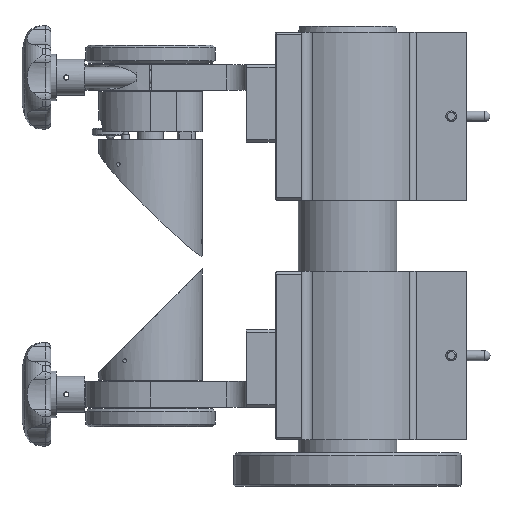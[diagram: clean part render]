
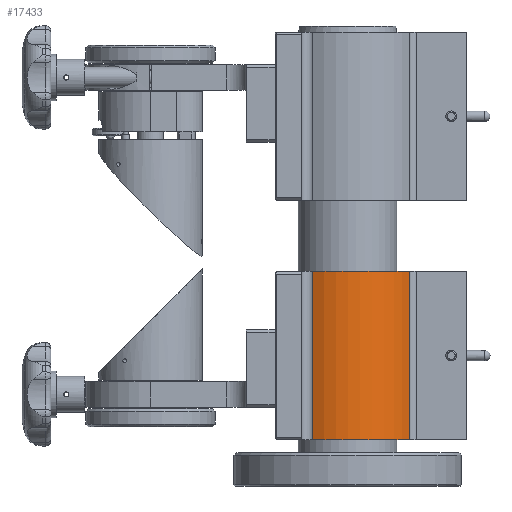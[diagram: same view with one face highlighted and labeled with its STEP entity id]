
A CAD part, left-side view. The second image highlights one B-rep face of the part: STEP entity #17433.
In plain terms, the highlighted cylindrical face has radius 28 mm (diameter 56 mm), a partial arc.
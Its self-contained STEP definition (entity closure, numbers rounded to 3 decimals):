
#608=LINE('',#27453,#1673);
#609=LINE('',#27459,#1674);
#1673=VECTOR('',#21867,65.);
#1674=VECTOR('',#21872,65.);
#3111=CYLINDRICAL_SURFACE('',#18894,28.);
#4226=FACE_OUTER_BOUND('',#5485,.T.);
#5485=EDGE_LOOP('',(#12641,#12642,#12643,#12644));
#6963=CIRCLE('',#18895,28.);
#6964=CIRCLE('',#18896,28.);
#8092=VERTEX_POINT('',#27446);
#8095=VERTEX_POINT('',#27451);
#8097=VERTEX_POINT('',#27456);
#8098=VERTEX_POINT('',#27458);
#9846=EDGE_CURVE('',#8095,#8092,#608,.T.);
#9848=EDGE_CURVE('',#8097,#8098,#609,.T.);
#9879=EDGE_CURVE('',#8092,#8097,#6963,.T.);
#9880=EDGE_CURVE('',#8098,#8095,#6964,.T.);
#12641=ORIENTED_EDGE('',*,*,#9848,.F.);
#12642=ORIENTED_EDGE('',*,*,#9879,.F.);
#12643=ORIENTED_EDGE('',*,*,#9846,.F.);
#12644=ORIENTED_EDGE('',*,*,#9880,.F.);
#17433=ADVANCED_FACE('',(#4226),#3111,.T.);
#18894=AXIS2_PLACEMENT_3D('',#27787,#21898,#21899);
#18895=AXIS2_PLACEMENT_3D('',#27788,#21900,#21901);
#18896=AXIS2_PLACEMENT_3D('',#27789,#21902,#21903);
#21867=DIRECTION('',(0.,0.,1.));
#21872=DIRECTION('',(0.,0.,-1.));
#21898=DIRECTION('center_axis',(0.,0.,-1.));
#21899=DIRECTION('ref_axis',(0.766,-0.643,0.));
#21900=DIRECTION('center_axis',(0.,0.,1.));
#21901=DIRECTION('ref_axis',(0.766,-0.643,0.));
#21902=DIRECTION('center_axis',(0.,0.,-1.));
#21903=DIRECTION('ref_axis',(0.766,-0.643,0.));
#27446=CARTESIAN_POINT('',(-24.504,13.548,32.5));
#27451=CARTESIAN_POINT('',(-24.504,13.548,-32.5));
#27453=CARTESIAN_POINT('',(-24.504,13.548,32.5));
#27456=CARTESIAN_POINT('',(-14.452,-23.982,32.5));
#27458=CARTESIAN_POINT('',(-14.452,-23.982,-32.5));
#27459=CARTESIAN_POINT('',(-14.452,-23.982,32.5));
#27787=CARTESIAN_POINT('Origin',(0.,0.,32.5));
#27788=CARTESIAN_POINT('Origin',(0.,0.,32.5));
#27789=CARTESIAN_POINT('Origin',(0.,0.,-32.5));
